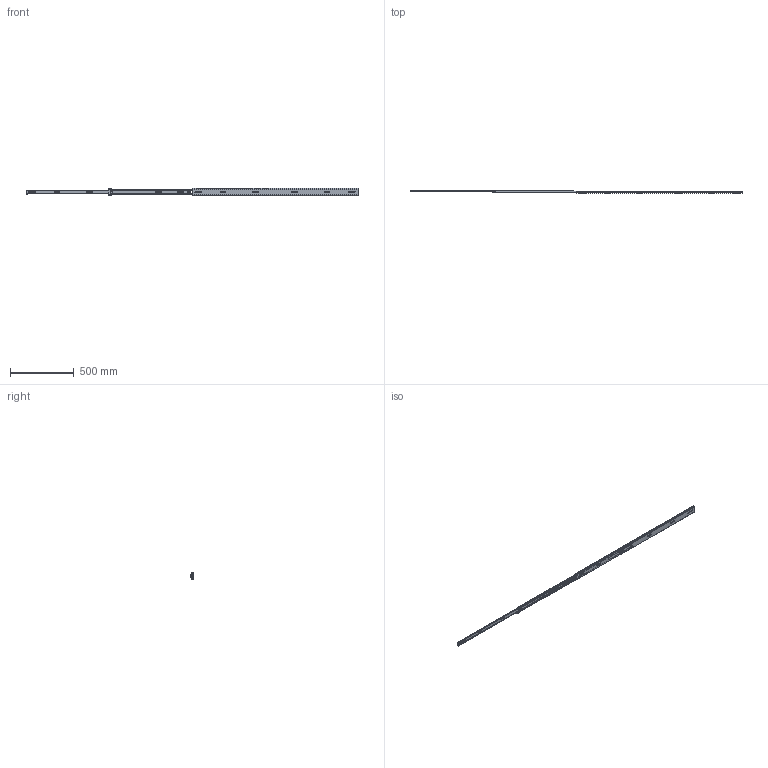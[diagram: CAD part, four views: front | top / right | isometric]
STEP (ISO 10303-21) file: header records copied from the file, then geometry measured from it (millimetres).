
FILE_DESCRIPTION((''),'2;1');
FILE_NAME('1057-C-52_ASM','2025-10-24T',('蔽翩'),(''),'CREO PARAMETRIC BY PTC INC, 2018220','CREO PARAMETRIC BY PTC INC, 2018220','');
FILE_SCHEMA(('CONFIG_CONTROL_DESIGN'));
Products named in the file (21): KP-57-01WEIKE-31_____________; MAODING-WAI_____________; 1057DAZHUJIA-20GE1_____________; 1057ZHUJIADANWEIJIAO1234; 1057-5-6GANZHU1_____________; 1057DAZHUJIA-20GE_12_____ASM; 1057-C-20-KE______________ASM; KP-57-01ZHONGGUI-36_____; PEIJIAN-22_____________; ZHUANJIAO112_____________; LIUJIAO-DING11_____________; MAODING-P_____________; 1057-XIAOJIAOLUN52; PEIJIAN-ZHONG______________ASM; 1057XIAOZHUJIA___2011_; 1057XIAOZHUJIA-20GE11__ASM; KP-57-01ZHONGGUI-36______ASM; KP-57-01NEIGUI-241_____________; XIN-JIAOGUAN52; KP-57-01NEIGUI-241______________ASM; 1057-C-52_ASM
Assembly tree (211 placements, depth 4):
  1057-C-52_ASM
    1057-C-20-KE______________ASM
      KP-57-01WEIKE-31_____________
      MAODING-WAI_____________  x2
      1057DAZHUJIA-20GE_12_____ASM
        1057DAZHUJIA-20GE1_____________
        1057ZHUJIADANWEIJIAO1234  x2
        1057-5-6GANZHU1_____________  x92
    KP-57-01ZHONGGUI-36______ASM
      KP-57-01ZHONGGUI-36_____
      PEIJIAN-ZHONG______________ASM  x2
        PEIJIAN-22_____________
        ZHUANJIAO112_____________
        LIUJIAO-DING11_____________
        MAODING-P_____________
        1057-XIAOJIAOLUN52
      MAODING-WAI_____________  x2
      1057XIAOZHUJIA-20GE11__ASM
        1057XIAOZHUJIA___2011_
        1057-5-6GANZHU1_____________  x92
        1057ZHUJIADANWEIJIAO1234  x2
    KP-57-01NEIGUI-241______________ASM
      KP-57-01NEIGUI-241_____________
      XIN-JIAOGUAN52  x2
Bounding box: 2600 x 19.8 x 57.69 mm (x, y, z)
Volume: 561916.4 mm3; surface area: 656973.8 mm2
Topology: 209 solids, 209 shells, 5166 faces, 14382 edges, 8892 vertices
Faces by surface type: plane 2310, cylinder 2118, sphere 374, bspline 146, cone 114, torus 96, extrusion 8
Entity records: 149389 total; most frequent: CARTESIAN_POINT 31127, DIRECTION 25184, ORIENTED_EDGE 24502, EDGE_CURVE 12251, AXIS2_PLACEMENT_3D 8684, VERTEX_POINT 7882, VECTOR 7816, LINE 7812
